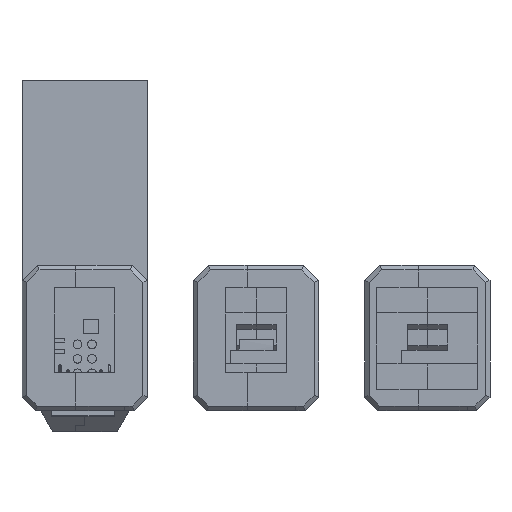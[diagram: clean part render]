
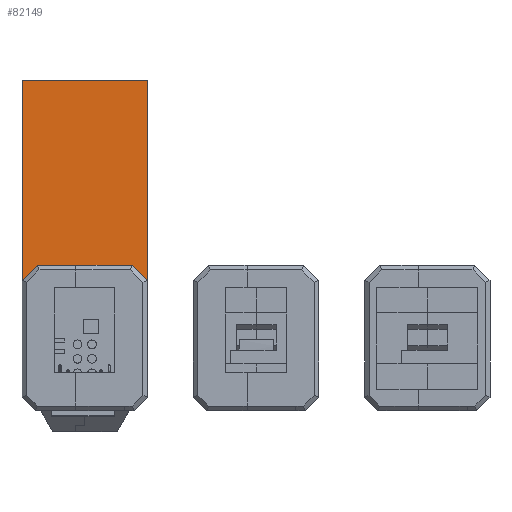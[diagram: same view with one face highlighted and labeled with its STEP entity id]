
A CAD part, front view. The second image highlights one B-rep face of the part: STEP entity #82149.
In plain terms, the highlighted planar face has unit normal (0, -1, 0).
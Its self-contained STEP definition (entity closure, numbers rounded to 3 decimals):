
#6951=FACE_OUTER_BOUND('',#11359,.T.);
#11359=EDGE_LOOP('',(#70796,#70797,#70798,#70799,#70800,#70801));
#20360=LINE('',#133657,#30121);
#20394=LINE('',#133731,#30155);
#20397=LINE('',#133737,#30158);
#20402=LINE('',#133747,#30163);
#20403=LINE('',#133749,#30164);
#20404=LINE('',#133750,#30165);
#30121=VECTOR('',#108475,10.);
#30155=VECTOR('',#108529,10.);
#30158=VECTOR('',#108534,10.);
#30163=VECTOR('',#108543,10.);
#30164=VECTOR('',#108544,10.);
#30165=VECTOR('',#108545,10.);
#38025=VERTEX_POINT('',#133648);
#38028=VERTEX_POINT('',#133656);
#38058=VERTEX_POINT('',#133730);
#38060=VERTEX_POINT('',#133736);
#38063=VERTEX_POINT('',#133746);
#38064=VERTEX_POINT('',#133748);
#49069=EDGE_CURVE('',#38028,#38025,#20360,.T.);
#49106=EDGE_CURVE('',#38058,#38028,#20394,.T.);
#49109=EDGE_CURVE('',#38060,#38058,#20397,.T.);
#49114=EDGE_CURVE('',#38025,#38063,#20402,.T.);
#49115=EDGE_CURVE('',#38064,#38063,#20403,.T.);
#49116=EDGE_CURVE('',#38064,#38060,#20404,.T.);
#70796=ORIENTED_EDGE('',*,*,#49069,.T.);
#70797=ORIENTED_EDGE('',*,*,#49114,.T.);
#70798=ORIENTED_EDGE('',*,*,#49115,.F.);
#70799=ORIENTED_EDGE('',*,*,#49116,.T.);
#70800=ORIENTED_EDGE('',*,*,#49109,.T.);
#70801=ORIENTED_EDGE('',*,*,#49106,.T.);
#76404=PLANE('',#88559);
#82149=ADVANCED_FACE('',(#6951),#76404,.T.);
#88559=AXIS2_PLACEMENT_3D('',#133745,#108541,#108542);
#108475=DIRECTION('',(1.,0.,0.));
#108529=DIRECTION('',(0.,0.,-1.));
#108534=DIRECTION('',(-1.,0.,0.));
#108541=DIRECTION('center_axis',(0.,-1.,0.));
#108542=DIRECTION('ref_axis',(0.,0.,-1.));
#108543=DIRECTION('',(1.,0.,0.));
#108544=DIRECTION('',(-0.5,0.,0.866));
#108545=DIRECTION('',(0.,0.,1.));
#133648=CARTESIAN_POINT('',(-7.68,13.58,1.492));
#133656=CARTESIAN_POINT('',(-17.101,13.58,1.492));
#133657=CARTESIAN_POINT('',(-11.723,13.58,1.492));
#133730=CARTESIAN_POINT('',(-17.101,13.58,43.472));
#133731=CARTESIAN_POINT('',(-17.101,13.58,-7.823));
#133736=CARTESIAN_POINT('',(4.879,13.58,43.472));
#133737=CARTESIAN_POINT('',(-17.101,13.58,43.472));
#133745=CARTESIAN_POINT('Origin',(-6.111,13.58,17.879));
#133746=CARTESIAN_POINT('',(-0.437,13.58,1.492));
#133747=CARTESIAN_POINT('',(-11.723,13.58,1.492));
#133748=CARTESIAN_POINT('',(4.879,13.58,-7.715));
#133749=CARTESIAN_POINT('',(-4.694,13.58,8.866));
#133750=CARTESIAN_POINT('',(4.879,13.58,43.472));
